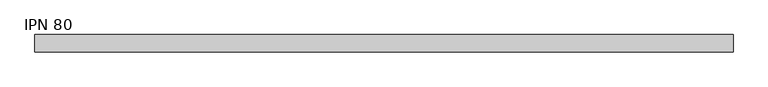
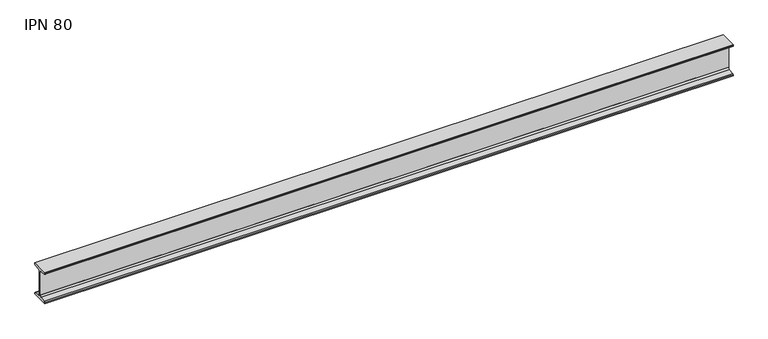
"""IFC4 building model written with IfcOpenShell, lengths in millimetres: beam geometry, IPN - Secciones en I con alas cónicas : IPN 80."""

from ifc_helpers import new_model, si_unit, point, frame, frame_2d, origin, place, context, project, spatial, polyline, circle_curve, trimmed, segment, composite_curve, outline, extrude, source, transform, mapped, element, save


def ipn_80_3470acd9(model_context):
    return source(origin(), model_context, "Body", "SweptSolid", [
        extrude(outline(composite_curve([segment(polyline([(21.0, 40.0), (21.0, 37.5704306)]), True, "CONTINUOUS"), segment(trimmed(circle_curve(frame_2d((18.7, 37.5704306)), 2.3), [point((21.0, 37.5704306))], [point((19.01889, 35.2926446))], False, "CARTESIAN"), True, "CONTINUOUS"), segment(polyline([(19.01889, 35.2926446), (5.3092734, 33.3732983)]), True, "CONTINUOUS"), segment(trimmed(circle_curve(frame_2d((5.85, 29.5109655)), 3.9), [point((5.3092734, 33.3732983))], [point((1.95, 29.5109655))], True, "CARTESIAN"), True, "CONTINUOUS"), segment(polyline([(1.95, 29.5109655), (1.95, -29.5109655)]), True, "CONTINUOUS"), segment(trimmed(circle_curve(frame_2d((5.85, -29.5109655)), 3.9), [point((1.95, -29.5109655))], [point((5.3092734, -33.3732983))], True, "CARTESIAN"), True, "CONTINUOUS"), segment(polyline([(5.3092734, -33.3732983), (19.01889, -35.2926446)]), True, "CONTINUOUS"), segment(trimmed(circle_curve(frame_2d((18.7, -37.5704306)), 2.3), [point((19.01889, -35.2926446))], [point((21.0, -37.5704306))], False, "CARTESIAN"), True, "CONTINUOUS"), segment(polyline([(21.0, -37.5704306), (21.0, -40.0), (-21.0, -40.0), (-21.0, -37.5704306)]), True, "CONTINUOUS"), segment(trimmed(circle_curve(frame_2d((-18.7, -37.5704306)), 2.3), [point((-21.0, -37.5704306))], [point((-19.01889, -35.2926446))], False, "CARTESIAN"), True, "CONTINUOUS"), segment(polyline([(-19.01889, -35.2926446), (-5.3092734, -33.3732983)]), True, "CONTINUOUS"), segment(trimmed(circle_curve(frame_2d((-5.85, -29.5109655)), 3.9), [point((-5.3092734, -33.3732983))], [point((-1.95, -29.5109655))], True, "CARTESIAN"), True, "CONTINUOUS"), segment(polyline([(-1.95, -29.5109655), (-1.95, 29.5109655)]), True, "CONTINUOUS"), segment(trimmed(circle_curve(frame_2d((-5.85, 29.5109655)), 3.9), [point((-1.95, 29.5109655))], [point((-5.3092734, 33.3732983))], True, "CARTESIAN"), True, "CONTINUOUS"), segment(polyline([(-5.3092734, 33.3732983), (-19.01889, 35.2926446)]), True, "CONTINUOUS"), segment(trimmed(circle_curve(frame_2d((-18.7, 37.5704306)), 2.3), [point((-19.01889, 35.2926446))], [point((-21.0, 37.5704306))], False, "CARTESIAN"), True, "CONTINUOUS"), segment(polyline([(-21.0, 37.5704306), (-21.0, 40.0), (21.0, 40.0)]), True, "CONTINUOUS")], self_intersect=False)), frame((-868.0, 0.0, 0.0), z_axis=(1.0, 0.0, 0.0), x_axis=(0.0, 1.0, 0.0)), (0.0, 0.0, 1.0), 1677.0),
    ])


if __name__ == "__main__":
    model = new_model("IFC4")
    model_context = context("Model", 3, world=origin())
    ifc_project = project(units=[si_unit("LENGTHUNIT", "METRE", prefix="MILLI")], contexts=[model_context])
    site = spatial("IfcSite", under=ifc_project)
    building = spatial("IfcBuilding", under=site)
    placement = place(None, origin())
    ipn_80_shape = ipn_80_3470acd9(model_context)
    element("IfcBeam", 1, ObjectType="IPN - Secciones en I con alas cónicas : IPN 80", at=placement, inside=building, context=model_context, shape_type="MappedRepresentation", body=[
        mapped(ipn_80_shape, transform((0.0, 0.0, 0.0), x_axis=(1.0, 0.0, 0.0), y_axis=(0.0, 1.0, 0.0), z_axis=(0.0, 0.0, 1.0))),
    ])
    save(model, "model.ifc")
